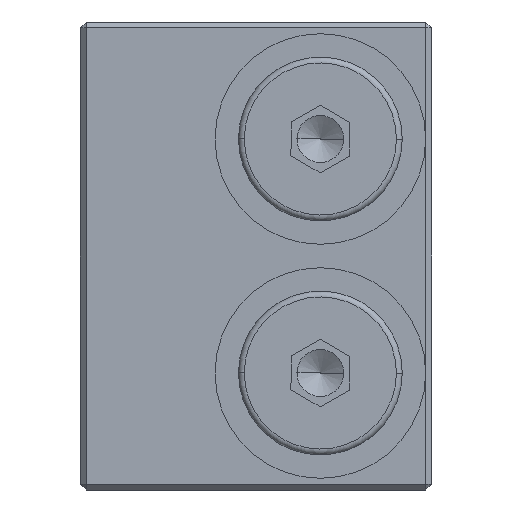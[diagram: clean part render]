
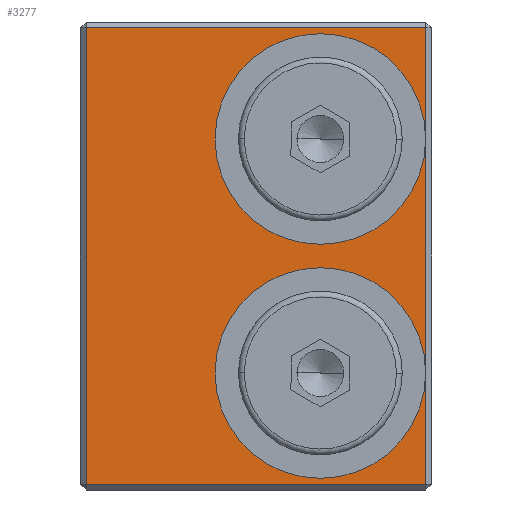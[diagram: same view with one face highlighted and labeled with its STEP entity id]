
A CAD part, left-side view. The second image highlights one B-rep face of the part: STEP entity #3277.
In plain terms, the highlighted planar face has unit normal (-1, 0, 0).
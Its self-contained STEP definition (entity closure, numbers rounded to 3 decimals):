
#65 = ORIENTED_EDGE ( 'NONE', *, *, #3425, .F. ) ;
#127 = VERTEX_POINT ( 'NONE', #11102 ) ;
#205 = AXIS2_PLACEMENT_3D ( 'NONE', #2914, #2962, #8164 ) ;
#219 = EDGE_CURVE ( 'NONE', #4281, #127, #7108, .T. ) ;
#287 = CARTESIAN_POINT ( 'NONE',  ( 0., -5.5, -19. ) ) ;
#408 = AXIS2_PLACEMENT_3D ( 'NONE', #4802, #9892, #8151 ) ;
#490 = ORIENTED_EDGE ( 'NONE', *, *, #1725, .F. ) ;
#523 = EDGE_CURVE ( 'NONE', #4705, #6988, #10598, .T. ) ;
#611 = VERTEX_POINT ( 'NONE', #4304 ) ;
#788 = EDGE_CURVE ( 'NONE', #1242, #4705, #806, .T. ) ;
#806 = LINE ( 'NONE', #4525, #953 ) ;
#929 = VECTOR ( 'NONE', #6186, 1000. ) ;
#953 = VECTOR ( 'NONE', #7149, 1000. ) ;
#1158 = EDGE_CURVE ( 'NONE', #5588, #1242, #10330, .T. ) ;
#1242 = VERTEX_POINT ( 'NONE', #4177 ) ;
#1382 = EDGE_CURVE ( 'NONE', #6208, #5588, #8689, .T. ) ;
#1505 = EDGE_CURVE ( 'NONE', #4281, #6208, #8003, .T. ) ;
#1645 = CARTESIAN_POINT ( 'NONE',  ( 0., -14.5, 20. ) ) ;
#1656 = CARTESIAN_POINT ( 'NONE',  ( 0., -14.5, -10. ) ) ;
#1725 = EDGE_CURVE ( 'NONE', #127, #611, #6859, .T. ) ;
#1961 = PLANE ( 'NONE',  #2520 ) ;
#2225 = CARTESIAN_POINT ( 'NONE',  ( 0., 15., 19.5 ) ) ;
#2384 = DIRECTION ( 'NONE',  ( -1., 0., 0. ) ) ;
#2520 = AXIS2_PLACEMENT_3D ( 'NONE', #6276, #10655, #8488 ) ;
#2603 = CARTESIAN_POINT ( 'NONE',  ( 0., -14.5, 20. ) ) ;
#2914 = CARTESIAN_POINT ( 'NONE',  ( 0., -5.5, 10. ) ) ;
#2961 = AXIS2_PLACEMENT_3D ( 'NONE', #3549, #2384, #9831 ) ;
#2962 = DIRECTION ( 'NONE',  ( -1., 0., 0. ) ) ;
#3277 = ADVANCED_FACE ( 'NONE', ( #4733 ), #1961, .T. ) ;
#3349 = DIRECTION ( 'NONE',  ( 0., 0., 1. ) ) ;
#3425 = EDGE_CURVE ( 'NONE', #611, #4281, #4707, .T. ) ;
#3471 = ORIENTED_EDGE ( 'NONE', *, *, #788, .T. ) ;
#3549 = CARTESIAN_POINT ( 'NONE',  ( 0., -5.5, -10. ) ) ;
#3590 = AXIS2_PLACEMENT_3D ( 'NONE', #5476, #10554, #4585 ) ;
#3913 = VECTOR ( 'NONE', #10849, 1000. ) ;
#4177 = CARTESIAN_POINT ( 'NONE',  ( 0., 14.5, -19.5 ) ) ;
#4281 = VERTEX_POINT ( 'NONE', #5879 ) ;
#4304 = CARTESIAN_POINT ( 'NONE',  ( 0., -5.5, 1. ) ) ;
#4426 = EDGE_LOOP ( 'NONE', ( #5343, #5742, #65, #490, #9690, #5599, #9965, #8094, #3471, #8846, #6137, #9570 ) ) ;
#4525 = CARTESIAN_POINT ( 'NONE',  ( 0., -15., -19.5 ) ) ;
#4573 = CIRCLE ( 'NONE', #2961, 9. ) ;
#4585 = DIRECTION ( 'NONE',  ( 0., 0., 1. ) ) ;
#4636 = CARTESIAN_POINT ( 'NONE',  ( 0., 14.5, 19.5 ) ) ;
#4705 = VERTEX_POINT ( 'NONE', #8009 ) ;
#4707 = CIRCLE ( 'NONE', #205, 9. ) ;
#4733 = FACE_OUTER_BOUND ( 'NONE', #4426, .T. ) ;
#4802 = CARTESIAN_POINT ( 'NONE',  ( 0., -5.5, 10. ) ) ;
#5343 = ORIENTED_EDGE ( 'NONE', *, *, #5938, .F. ) ;
#5476 = CARTESIAN_POINT ( 'NONE',  ( 0., -5.5, 10. ) ) ;
#5588 = VERTEX_POINT ( 'NONE', #4636 ) ;
#5599 = ORIENTED_EDGE ( 'NONE', *, *, #1505, .T. ) ;
#5742 = ORIENTED_EDGE ( 'NONE', *, *, #10521, .T. ) ;
#5827 = CIRCLE ( 'NONE', #6574, 9. ) ;
#5879 = CARTESIAN_POINT ( 'NONE',  ( 0., -14.5, 10. ) ) ;
#5938 = EDGE_CURVE ( 'NONE', #6988, #8577, #7083, .T. ) ;
#6050 = EDGE_CURVE ( 'NONE', #9728, #6988, #5827, .T. ) ;
#6137 = ORIENTED_EDGE ( 'NONE', *, *, #6050, .F. ) ;
#6186 = DIRECTION ( 'NONE',  ( 0., 0., 1. ) ) ;
#6208 = VERTEX_POINT ( 'NONE', #9413 ) ;
#6276 = CARTESIAN_POINT ( 'NONE',  ( 0., 15., -20. ) ) ;
#6574 = AXIS2_PLACEMENT_3D ( 'NONE', #8648, #8688, #8708 ) ;
#6607 = DIRECTION ( 'NONE',  ( 0., 1., 0. ) ) ;
#6859 = CIRCLE ( 'NONE', #3590, 9. ) ;
#6988 = VERTEX_POINT ( 'NONE', #1656 ) ;
#7083 = CIRCLE ( 'NONE', #7335, 9. ) ;
#7108 = CIRCLE ( 'NONE', #408, 9. ) ;
#7149 = DIRECTION ( 'NONE',  ( 0., -1., 0. ) ) ;
#7223 = DIRECTION ( 'NONE',  ( 0., 0., 1. ) ) ;
#7329 = VECTOR ( 'NONE', #6607, 1000. ) ;
#7335 = AXIS2_PLACEMENT_3D ( 'NONE', #7403, #7979, #8001 ) ;
#7403 = CARTESIAN_POINT ( 'NONE',  ( 0., -5.5, -10. ) ) ;
#7529 = LINE ( 'NONE', #1645, #10485 ) ;
#7893 = VECTOR ( 'NONE', #3349, 1000. ) ;
#7979 = DIRECTION ( 'NONE',  ( -1., 0., 0. ) ) ;
#8001 = DIRECTION ( 'NONE',  ( 0., 0., 1. ) ) ;
#8003 = LINE ( 'NONE', #2603, #7893 ) ;
#8009 = CARTESIAN_POINT ( 'NONE',  ( 0., -14.5, -19.5 ) ) ;
#8094 = ORIENTED_EDGE ( 'NONE', *, *, #1158, .T. ) ;
#8151 = DIRECTION ( 'NONE',  ( 0., 0., 1. ) ) ;
#8164 = DIRECTION ( 'NONE',  ( 0., 0., 1. ) ) ;
#8488 = DIRECTION ( 'NONE',  ( 0., 0., 1. ) ) ;
#8577 = VERTEX_POINT ( 'NONE', #10871 ) ;
#8648 = CARTESIAN_POINT ( 'NONE',  ( 0., -5.5, -10. ) ) ;
#8688 = DIRECTION ( 'NONE',  ( -1., 0., 0. ) ) ;
#8689 = LINE ( 'NONE', #2225, #7329 ) ;
#8708 = DIRECTION ( 'NONE',  ( 0., 0., 1. ) ) ;
#8846 = ORIENTED_EDGE ( 'NONE', *, *, #523, .T. ) ;
#9413 = CARTESIAN_POINT ( 'NONE',  ( 0., -14.5, 19.5 ) ) ;
#9570 = ORIENTED_EDGE ( 'NONE', *, *, #10333, .F. ) ;
#9690 = ORIENTED_EDGE ( 'NONE', *, *, #219, .F. ) ;
#9728 = VERTEX_POINT ( 'NONE', #287 ) ;
#9831 = DIRECTION ( 'NONE',  ( 0., 0., 1. ) ) ;
#9892 = DIRECTION ( 'NONE',  ( -1., 0., 0. ) ) ;
#9965 = ORIENTED_EDGE ( 'NONE', *, *, #1382, .T. ) ;
#10330 = LINE ( 'NONE', #10773, #3913 ) ;
#10333 = EDGE_CURVE ( 'NONE', #8577, #9728, #4573, .T. ) ;
#10485 = VECTOR ( 'NONE', #7223, 1000. ) ;
#10521 = EDGE_CURVE ( 'NONE', #6988, #4281, #7529, .T. ) ;
#10554 = DIRECTION ( 'NONE',  ( -1., 0., 0. ) ) ;
#10598 = LINE ( 'NONE', #11263, #929 ) ;
#10655 = DIRECTION ( 'NONE',  ( -1., 0., 0. ) ) ;
#10773 = CARTESIAN_POINT ( 'NONE',  ( 0., 14.5, -20. ) ) ;
#10849 = DIRECTION ( 'NONE',  ( 0., 0., -1. ) ) ;
#10871 = CARTESIAN_POINT ( 'NONE',  ( 0., -5.5, -1. ) ) ;
#11102 = CARTESIAN_POINT ( 'NONE',  ( 0., -5.5, 19. ) ) ;
#11263 = CARTESIAN_POINT ( 'NONE',  ( 0., -14.5, 20. ) ) ;
